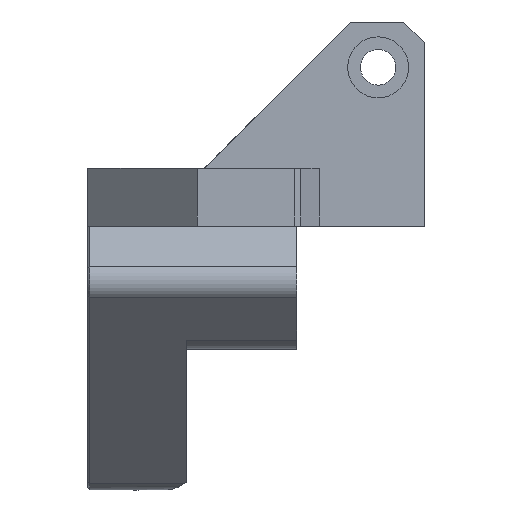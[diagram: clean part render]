
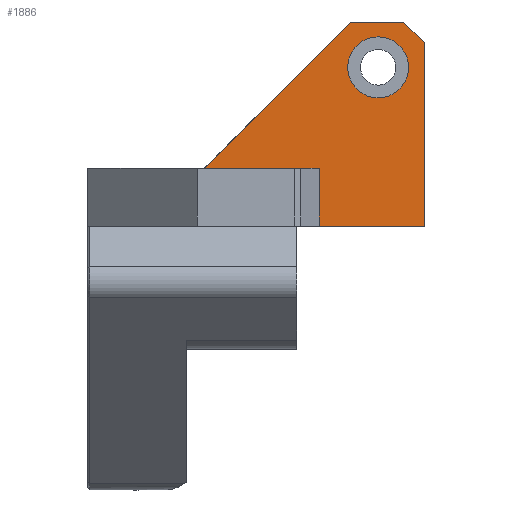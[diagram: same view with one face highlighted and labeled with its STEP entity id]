
A CAD part, left-side view. The second image highlights one B-rep face of the part: STEP entity #1886.
In plain terms, the highlighted planar face has unit normal (-1, 0, 0).
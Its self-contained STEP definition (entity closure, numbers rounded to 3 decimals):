
#31=FACE_BOUND('',#658,.T.);
#63=PLANE('',#1993);
#113=LINE('',#3127,#276);
#122=LINE('',#3146,#285);
#126=LINE('',#3153,#289);
#133=LINE('',#3178,#296);
#134=LINE('',#3181,#297);
#135=LINE('',#3182,#298);
#136=LINE('',#3183,#299);
#276=VECTOR('',#2166,10.);
#285=VECTOR('',#2177,10.);
#289=VECTOR('',#2183,10.);
#296=VECTOR('',#2210,10.);
#297=VECTOR('',#2213,10.);
#298=VECTOR('',#2214,10.);
#299=VECTOR('',#2215,10.);
#440=CIRCLE('',#1986,3.);
#552=FACE_OUTER_BOUND('',#657,.T.);
#657=EDGE_LOOP('',(#1383,#1384,#1385,#1386,#1387,#1388,#1389));
#658=EDGE_LOOP('',(#1390));
#847=VERTEX_POINT('',#3124);
#848=VERTEX_POINT('',#3126);
#856=VERTEX_POINT('',#3143);
#857=VERTEX_POINT('',#3145);
#859=VERTEX_POINT('',#3151);
#863=VERTEX_POINT('',#3163);
#867=VERTEX_POINT('',#3176);
#868=VERTEX_POINT('',#3180);
#1048=EDGE_CURVE('',#847,#848,#113,.T.);
#1057=EDGE_CURVE('',#856,#857,#122,.T.);
#1061=EDGE_CURVE('',#856,#859,#126,.T.);
#1066=EDGE_CURVE('',#863,#863,#440,.T.);
#1073=EDGE_CURVE('',#867,#859,#133,.T.);
#1074=EDGE_CURVE('',#868,#867,#134,.T.);
#1075=EDGE_CURVE('',#848,#868,#135,.T.);
#1076=EDGE_CURVE('',#847,#857,#136,.T.);
#1383=ORIENTED_EDGE('',*,*,#1057,.F.);
#1384=ORIENTED_EDGE('',*,*,#1061,.T.);
#1385=ORIENTED_EDGE('',*,*,#1073,.F.);
#1386=ORIENTED_EDGE('',*,*,#1074,.F.);
#1387=ORIENTED_EDGE('',*,*,#1075,.F.);
#1388=ORIENTED_EDGE('',*,*,#1048,.F.);
#1389=ORIENTED_EDGE('',*,*,#1076,.T.);
#1390=ORIENTED_EDGE('',*,*,#1066,.T.);
#1886=ADVANCED_FACE('',(#552,#31),#63,.T.);
#1986=AXIS2_PLACEMENT_3D('',#3164,#2193,#2194);
#1993=AXIS2_PLACEMENT_3D('',#3179,#2211,#2212);
#2166=DIRECTION('',(0.,1.,0.));
#2177=DIRECTION('',(0.,-0.707,-0.707));
#2183=DIRECTION('',(0.,1.,0.));
#2193=DIRECTION('center_axis',(1.,0.,
0.));
#2194=DIRECTION('ref_axis',(0.,-1.,0.));
#2210=DIRECTION('',(0.,-0.707,0.707));
#2211=DIRECTION('center_axis',(-1.,0.,
0.));
#2212=DIRECTION('ref_axis',(0.,-1.,0.));
#2213=DIRECTION('',(0.,1.,0.));
#2214=DIRECTION('',(0.,0.,1.));
#2215=DIRECTION('',(0.,0.,1.));
#3124=CARTESIAN_POINT('',(7.216,19.093,23.468));
#3126=CARTESIAN_POINT('',(7.216,29.411,23.468));
#3127=CARTESIAN_POINT('',(7.216,19.093,23.468));
#3143=CARTESIAN_POINT('',(7.216,21.093,43.568));
#3145=CARTESIAN_POINT('',(7.216,19.093,41.568));
#3146=CARTESIAN_POINT('',(7.216,19.586,42.061));
#3151=CARTESIAN_POINT('',(7.216,26.343,43.568));
#3153=CARTESIAN_POINT('',(7.216,31.466,43.568));
#3163=CARTESIAN_POINT('',(7.216,26.628,39.101));
#3164=CARTESIAN_POINT('Origin',(7.216,23.628,39.101));
#3176=CARTESIAN_POINT('',(7.216,40.743,29.168));
#3178=CARTESIAN_POINT('',(7.216,34.824,35.087));
#3179=CARTESIAN_POINT('Origin',(7.216,31.466,29.168));
#3180=CARTESIAN_POINT('',(7.216,29.411,29.168));
#3181=CARTESIAN_POINT('',(7.216,19.093,29.168));
#3182=CARTESIAN_POINT('',(7.216,29.411,29.168));
#3183=CARTESIAN_POINT('',(7.216,19.093,29.168));
